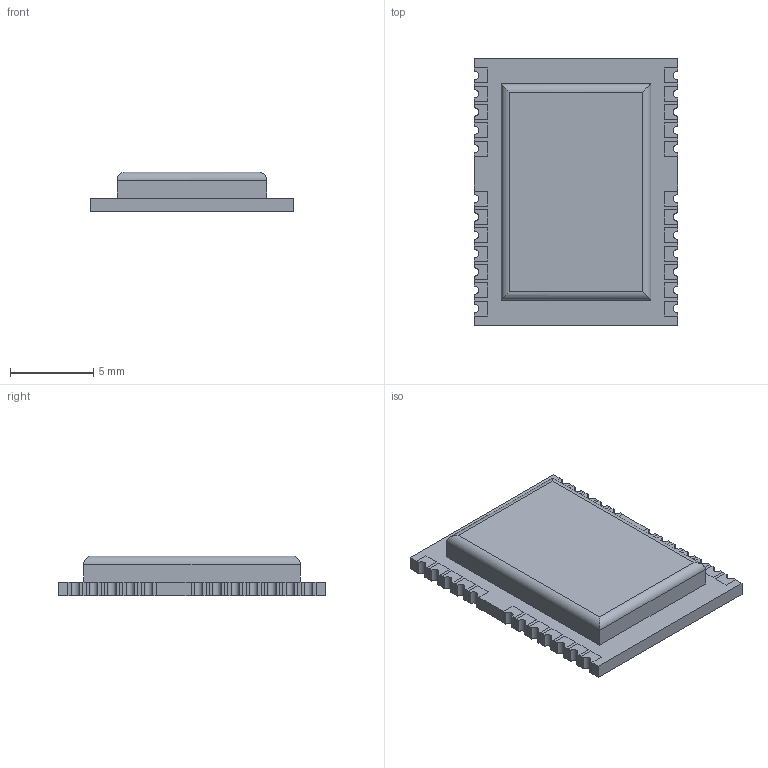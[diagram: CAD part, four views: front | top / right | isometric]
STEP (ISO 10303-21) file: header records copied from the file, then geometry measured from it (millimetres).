
FILE_DESCRIPTION (( 'STEP AP214' ), '1' );
FILE_NAME ('NEO-F10N-00B.STEP', '2024-06-03T15:15:33', ( '' ), ( '' ), 'SwSTEP 2.0', 'SolidWorks 2022', '' );
FILE_SCHEMA (( 'AUTOMOTIVE_DESIGN' ));
Length unit declared in the file: millimetre
Products named in the file (1): NEO-F10N-00B
Bounding box: 12.2 x 16 x 2.4 mm (x, y, z)
Volume: 340.7 mm3; surface area: 829.9 mm2
Topology: 26 solids, 26 shells, 316 faces, 788 edges, 524 vertices
Faces by surface type: plane 276, cylinder 40
Entity records: 12215 total; most frequent: CARTESIAN_POINT 1641, ORIENTED_EDGE 1576, DIRECTION 1490, EDGE_CURVE 788, LINE 712, VECTOR 712, VERTEX_POINT 524, AXIS2_PLACEMENT_3D 389
